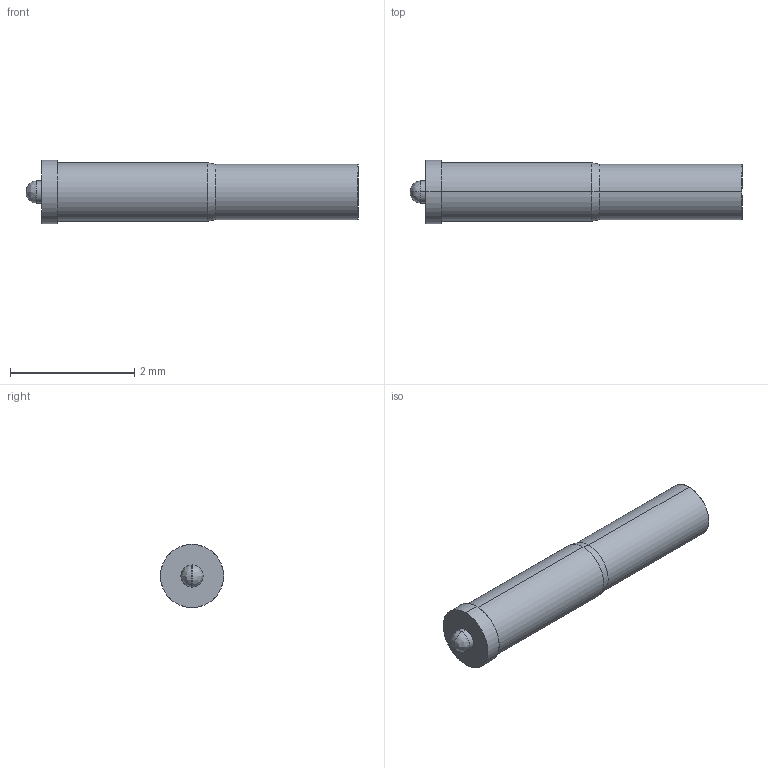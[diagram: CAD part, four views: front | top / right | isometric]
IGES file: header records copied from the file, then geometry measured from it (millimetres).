
Start section: SolidWorks IGES file using analytic representation for surfaces
Global section: file name: O:\PYLON\IGES FILES\A-S\A-S-R REC'D.IGS; native system: SolidWorks 2015; preprocessor: SolidWorks 2015; author: kgolden; date: 171023.150940; units: inch
Bounding box: 5.33 x 1.02 x 1.02 mm (x, y, z)
Surface area: 18.7 mm2 (no closed solid volume)
Topology: 0 solids, 0 shells, 19 faces, 176 edges, 176 vertices
Faces by surface type: revolution 12, bspline 7
